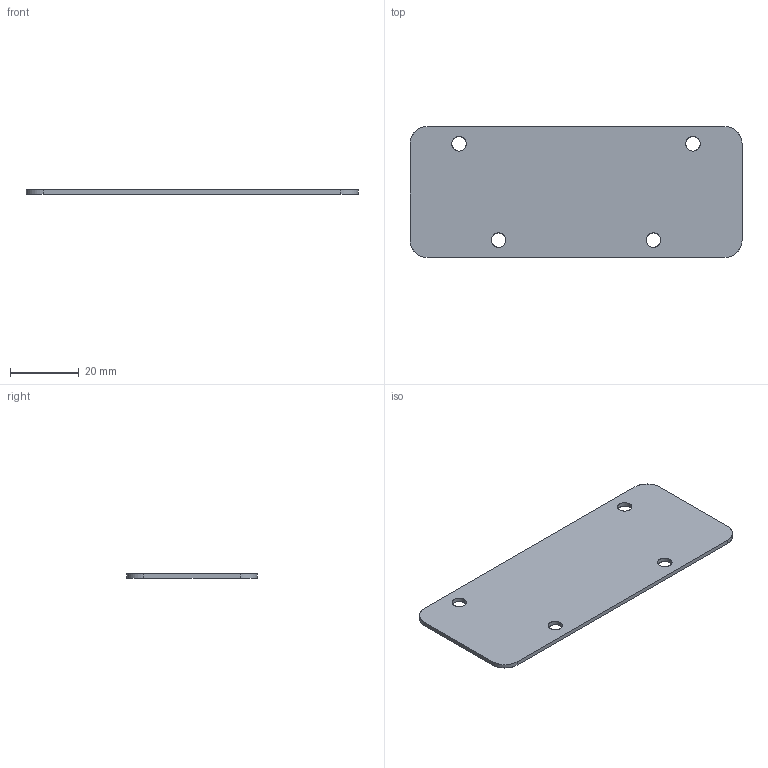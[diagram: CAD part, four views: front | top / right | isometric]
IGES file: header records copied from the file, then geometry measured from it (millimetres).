
Start section: SolidWorks IGES file using analytic representation for surfaces
Global section: file name: C:\Users\cbrechard\Desktop\AP 9304.IGS; native system: SolidWorks 2017; preprocessor: SolidWorks 2017; author: cbrechard; date: 220308.180329; units: millimetre
Bounding box: 96.5 x 38 x 1.2 mm (x, y, z)
Surface area: 7556.1 mm2 (no closed solid volume)
Topology: 0 solids, 0 shells, 18 faces, 392 edges, 392 vertices
Faces by surface type: revolution 12, bspline 6
